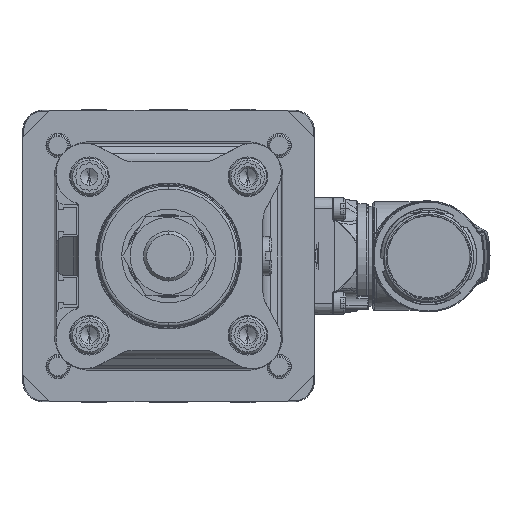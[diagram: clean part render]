
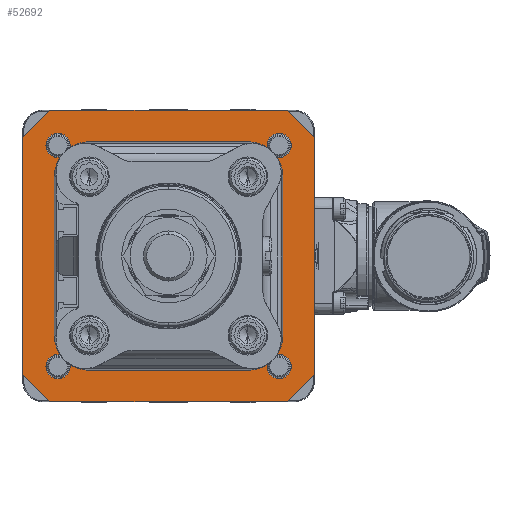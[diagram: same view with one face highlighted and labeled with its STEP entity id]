
A CAD part, left-side view. The second image highlights one B-rep face of the part: STEP entity #52692.
In plain terms, the highlighted planar face has unit normal (-1, 0, 0) as drawn and (0, 0, 1) by its records, which use the part's own axes.
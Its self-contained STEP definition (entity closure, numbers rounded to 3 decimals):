
#51676=DIRECTION('',(0.707,-0.707,0.));
#51677=VECTOR('',#51676,9.192);
#51678=CARTESIAN_POINT('',(28.5,35.,11.));
#51679=LINE('',#51678,#51677);
#51680=DIRECTION('',(0.,-1.,0.));
#51681=VECTOR('',#51680,57.);
#51682=CARTESIAN_POINT('',(35.,28.5,11.));
#51683=LINE('',#51682,#51681);
#51684=DIRECTION('',(-0.707,-0.707,0.));
#51685=VECTOR('',#51684,9.192);
#51686=CARTESIAN_POINT('',(35.,-28.5,11.));
#51687=LINE('',#51686,#51685);
#51688=DIRECTION('',(-1.,0.,0.));
#51689=VECTOR('',#51688,57.);
#51690=CARTESIAN_POINT('',(28.5,-35.,11.));
#51691=LINE('',#51690,#51689);
#51692=DIRECTION('',(-0.707,0.707,0.));
#51693=VECTOR('',#51692,9.192);
#51694=CARTESIAN_POINT('',(-28.5,-35.,11.));
#51695=LINE('',#51694,#51693);
#51696=DIRECTION('',(0.,1.,0.));
#51697=VECTOR('',#51696,57.);
#51698=CARTESIAN_POINT('',(-35.,-28.5,11.));
#51699=LINE('',#51698,#51697);
#51700=DIRECTION('',(0.707,0.707,0.));
#51701=VECTOR('',#51700,9.192);
#51702=CARTESIAN_POINT('',(-35.,28.5,11.));
#51703=LINE('',#51702,#51701);
#51704=DIRECTION('',(1.,0.,0.));
#51705=VECTOR('',#51704,57.);
#51706=CARTESIAN_POINT('',(-28.5,35.,11.));
#51707=LINE('',#51706,#51705);
#51708=CARTESIAN_POINT('',(26.517,26.517,11.));
#51709=DIRECTION('',(0.,0.,1.));
#51710=DIRECTION('',(1.,0.,0.));
#51711=AXIS2_PLACEMENT_3D('',#51708,#51709,#51710);
#51713=CARTESIAN_POINT('',(26.517,26.517,11.));
#51714=DIRECTION('',(0.,0.,1.));
#51715=DIRECTION('',(-1.,0.,0.));
#51716=AXIS2_PLACEMENT_3D('',#51713,#51714,#51715);
#51718=CARTESIAN_POINT('',(-26.517,26.517,11.));
#51719=DIRECTION('',(0.,0.,1.));
#51720=DIRECTION('',(1.,0.,0.));
#51721=AXIS2_PLACEMENT_3D('',#51718,#51719,#51720);
#51723=CARTESIAN_POINT('',(-26.517,26.517,11.));
#51724=DIRECTION('',(0.,0.,1.));
#51725=DIRECTION('',(-1.,0.,0.));
#51726=AXIS2_PLACEMENT_3D('',#51723,#51724,#51725);
#51728=CARTESIAN_POINT('',(-26.517,-26.517,11.));
#51729=DIRECTION('',(0.,0.,1.));
#51730=DIRECTION('',(1.,0.,0.));
#51731=AXIS2_PLACEMENT_3D('',#51728,#51729,#51730);
#51733=CARTESIAN_POINT('',(-26.517,-26.517,11.));
#51734=DIRECTION('',(0.,0.,1.));
#51735=DIRECTION('',(-1.,0.,0.));
#51736=AXIS2_PLACEMENT_3D('',#51733,#51734,#51735);
#51738=CARTESIAN_POINT('',(26.517,-26.517,11.));
#51739=DIRECTION('',(0.,0.,1.));
#51740=DIRECTION('',(1.,0.,0.));
#51741=AXIS2_PLACEMENT_3D('',#51738,#51739,#51740);
#51743=CARTESIAN_POINT('',(26.517,-26.517,11.));
#51744=DIRECTION('',(0.,0.,1.));
#51745=DIRECTION('',(-1.,0.,0.));
#51746=AXIS2_PLACEMENT_3D('',#51743,#51744,#51745);
#51748=CARTESIAN_POINT('',(0.,0.,
11.));
#51749=DIRECTION('',(0.,0.,1.));
#51750=DIRECTION('',(0.,-1.,0.));
#51751=AXIS2_PLACEMENT_3D('',#51748,#51749,#51750);
#51753=CARTESIAN_POINT('',(0.,0.,
11.));
#51754=DIRECTION('',(0.,0.,1.));
#51755=DIRECTION('',(0.,1.,0.));
#51756=AXIS2_PLACEMENT_3D('',#51753,#51754,#51755);
#52258=CARTESIAN_POINT('',(23.617,26.517,11.));
#52259=VERTEX_POINT('',#52258);
#52260=CARTESIAN_POINT('',(29.417,26.517,11.));
#52261=VERTEX_POINT('',#52260);
#52262=CARTESIAN_POINT('',(28.5,35.,11.));
#52263=CARTESIAN_POINT('',(35.,28.5,11.));
#52264=VERTEX_POINT('',#52262);
#52265=VERTEX_POINT('',#52263);
#52266=CARTESIAN_POINT('',(35.,-28.5,11.));
#52267=VERTEX_POINT('',#52266);
#52268=CARTESIAN_POINT('',(28.5,-35.,11.));
#52269=VERTEX_POINT('',#52268);
#52270=CARTESIAN_POINT('',(-28.5,-35.,11.));
#52271=VERTEX_POINT('',#52270);
#52272=CARTESIAN_POINT('',(-35.,-28.5,11.));
#52273=VERTEX_POINT('',#52272);
#52274=CARTESIAN_POINT('',(-35.,28.5,11.));
#52275=VERTEX_POINT('',#52274);
#52276=CARTESIAN_POINT('',(-28.5,35.,11.));
#52277=VERTEX_POINT('',#52276);
#52278=CARTESIAN_POINT('',(-23.617,26.517,11.));
#52279=CARTESIAN_POINT('',(-29.417,26.517,11.));
#52280=VERTEX_POINT('',#52278);
#52281=VERTEX_POINT('',#52279);
#52282=CARTESIAN_POINT('',(-23.617,-26.517,11.));
#52283=CARTESIAN_POINT('',(-29.417,-26.517,11.));
#52284=VERTEX_POINT('',#52282);
#52285=VERTEX_POINT('',#52283);
#52286=CARTESIAN_POINT('',(29.417,-26.517,11.));
#52287=CARTESIAN_POINT('',(23.617,-26.517,11.));
#52288=VERTEX_POINT('',#52286);
#52289=VERTEX_POINT('',#52287);
#52290=CARTESIAN_POINT('',(0.,-22.289,
11.));
#52291=CARTESIAN_POINT('',(0.,22.289,
11.));
#52292=VERTEX_POINT('',#52290);
#52293=VERTEX_POINT('',#52291);
#52647=CARTESIAN_POINT('',(0.,0.,11.));
#52648=DIRECTION('',(0.,0.,1.));
#52649=DIRECTION('',(1.,0.,0.));
#52650=AXIS2_PLACEMENT_3D('',#52647,#52648,#52649);
#52651=PLANE('',#52650);
#52652=ORIENTED_EDGE('',*,*,#52487,.T.);
#52653=ORIENTED_EDGE('',*,*,#52510,.T.);
#52654=ORIENTED_EDGE('',*,*,#52530,.T.);
#52655=ORIENTED_EDGE('',*,*,#52550,.T.);
#52656=ORIENTED_EDGE('',*,*,#52572,.T.);
#52657=ORIENTED_EDGE('',*,*,#52592,.T.);
#52658=ORIENTED_EDGE('',*,*,#52614,.T.);
#52659=ORIENTED_EDGE('',*,*,#52633,.T.);
#52660=EDGE_LOOP('',(#52652,#52653,#52654,#52655,#52656,#52657,#52658,#52659));
#52661=FACE_OUTER_BOUND('',#52660,.F.);
#52663=ORIENTED_EDGE('',*,*,#52662,.T.);
#52665=ORIENTED_EDGE('',*,*,#52664,.T.);
#52666=EDGE_LOOP('',(#52663,#52665));
#52667=FACE_BOUND('',#52666,.F.);
#52669=ORIENTED_EDGE('',*,*,#52668,.T.);
#52671=ORIENTED_EDGE('',*,*,#52670,.T.);
#52672=EDGE_LOOP('',(#52669,#52671));
#52673=FACE_BOUND('',#52672,.F.);
#52675=ORIENTED_EDGE('',*,*,#52674,.T.);
#52677=ORIENTED_EDGE('',*,*,#52676,.T.);
#52678=EDGE_LOOP('',(#52675,#52677));
#52679=FACE_BOUND('',#52678,.F.);
#52681=ORIENTED_EDGE('',*,*,#52680,.T.);
#52683=ORIENTED_EDGE('',*,*,#52682,.T.);
#52684=EDGE_LOOP('',(#52681,#52683));
#52685=FACE_BOUND('',#52684,.F.);
#52687=ORIENTED_EDGE('',*,*,#52686,.T.);
#52689=ORIENTED_EDGE('',*,*,#52688,.T.);
#52690=EDGE_LOOP('',(#52687,#52689));
#52691=FACE_BOUND('',#52690,.F.);
#52692=ADVANCED_FACE('',(#52661,#52667,#52673,#52679,#52685,#52691),#52651,.T.);
#51712=CIRCLE('',#51711,2.9);
#51717=CIRCLE('',#51716,2.9);
#51722=CIRCLE('',#51721,2.9);
#51727=CIRCLE('',#51726,2.9);
#51732=CIRCLE('',#51731,2.9);
#51737=CIRCLE('',#51736,2.9);
#51742=CIRCLE('',#51741,2.9);
#51747=CIRCLE('',#51746,2.9);
#51752=CIRCLE('',#51751,22.289);
#51757=CIRCLE('',#51756,22.289);
#52487=EDGE_CURVE('',#52264,#52265,#51679,.T.);
#52510=EDGE_CURVE('',#52265,#52267,#51683,.T.);
#52530=EDGE_CURVE('',#52267,#52269,#51687,.T.);
#52550=EDGE_CURVE('',#52269,#52271,#51691,.T.);
#52572=EDGE_CURVE('',#52271,#52273,#51695,.T.);
#52592=EDGE_CURVE('',#52273,#52275,#51699,.T.);
#52614=EDGE_CURVE('',#52275,#52277,#51703,.T.);
#52633=EDGE_CURVE('',#52277,#52264,#51707,.T.);
#52662=EDGE_CURVE('',#52261,#52259,#51712,.T.);
#52664=EDGE_CURVE('',#52259,#52261,#51717,.T.);
#52668=EDGE_CURVE('',#52280,#52281,#51722,.T.);
#52670=EDGE_CURVE('',#52281,#52280,#51727,.T.);
#52674=EDGE_CURVE('',#52284,#52285,#51732,.T.);
#52676=EDGE_CURVE('',#52285,#52284,#51737,.T.);
#52680=EDGE_CURVE('',#52288,#52289,#51742,.T.);
#52682=EDGE_CURVE('',#52289,#52288,#51747,.T.);
#52686=EDGE_CURVE('',#52292,#52293,#51752,.T.);
#52688=EDGE_CURVE('',#52293,#52292,#51757,.T.);
